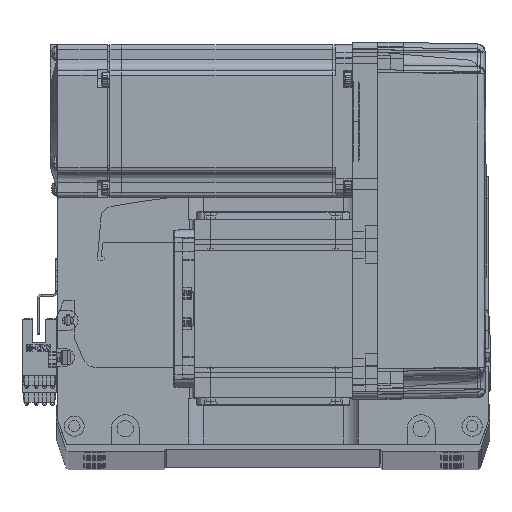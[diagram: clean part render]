
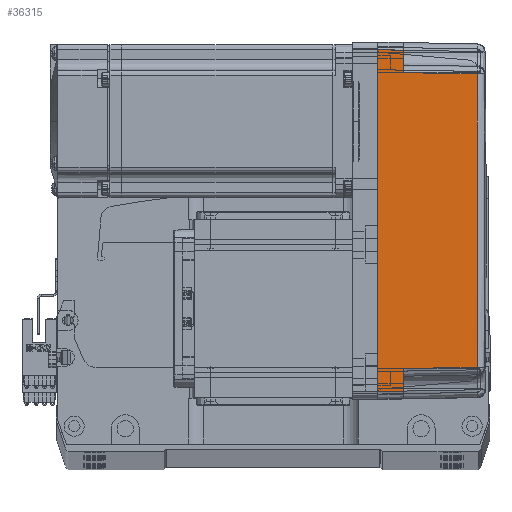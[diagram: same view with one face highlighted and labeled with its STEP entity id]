
A CAD part, top view. The second image highlights one B-rep face of the part: STEP entity #36315.
In plain terms, the highlighted planar face has unit normal (0.018, 0, 1) as drawn and (0, -1, 0.017) by its records, which use the part's own axes.
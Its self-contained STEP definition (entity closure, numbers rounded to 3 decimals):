
#50 = CARTESIAN_POINT ( 'NONE',  ( -58., -35.825, 10. ) ) ;
#1685 = LINE ( 'NONE', #41602, #22486 ) ;
#1784 = DIRECTION ( 'NONE',  ( 0., -0.017, -1. ) ) ;
#1838 = CARTESIAN_POINT ( 'NONE',  ( 66.826, -35.825, 10. ) ) ;
#1848 = VERTEX_POINT ( 'NONE', #66404 ) ;
#3547 = EDGE_CURVE ( 'NONE', #44072, #3699, #45380, .T. ) ;
#3699 = VERTEX_POINT ( 'NONE', #50 ) ;
#4938 = ORIENTED_EDGE ( 'NONE', *, *, #40182, .T. ) ;
#5418 = CARTESIAN_POINT ( 'NONE',  ( 0., -36., 0. ) ) ;
#6185 = ORIENTED_EDGE ( 'NONE', *, *, #15941, .F. ) ;
#6418 = CARTESIAN_POINT ( 'NONE',  ( -57.495, -35.32, 38.985 ) ) ;
#6998 = DIRECTION ( 'NONE',  ( -1., 0., 0. ) ) ;
#11124 = ORIENTED_EDGE ( 'NONE', *, *, #41765, .T. ) ;
#11686 = EDGE_CURVE ( 'NONE', #74172, #57966, #49314, .T. ) ;
#12931 = CARTESIAN_POINT ( 'NONE',  ( -19.165, -35.316, 39.181 ) ) ;
#15156 = CARTESIAN_POINT ( 'NONE',  ( 58., -35.825, 10. ) ) ;
#15652 = CARTESIAN_POINT ( 'NONE',  ( -57.495, -35.32, 38.985 ) ) ;
#15899 = DIRECTION ( 'NONE',  ( -0.017, 0.017, 1. ) ) ;
#15941 = EDGE_CURVE ( 'NONE', #19341, #74172, #52942, .T. ) ;
#16978 = VERTEX_POINT ( 'NONE', #1838 ) ;
#17198 = CARTESIAN_POINT ( 'NONE',  ( -66.959, -35.958, 2.39 ) ) ;
#18239 = CARTESIAN_POINT ( 'NONE',  ( 57.495, -35.32, 38.985 ) ) ;
#19341 = VERTEX_POINT ( 'NONE', #32336 ) ;
#19755 = FACE_OUTER_BOUND ( 'NONE', #39770, .T. ) ;
#21669 = ORIENTED_EDGE ( 'NONE', *, *, #38778, .T. ) ;
#22486 = VECTOR ( 'NONE', #6998, 1000. ) ;
#25475 = PLANE ( 'NONE',  #37533 ) ;
#25504 = VECTOR ( 'NONE', #50763, 1000. ) ;
#25732 = CARTESIAN_POINT ( 'NONE',  ( 70., -36., 0. ) ) ;
#26575 = DIRECTION ( 'NONE',  ( -0.017, 0.017, 1. ) ) ;
#27777 = ORIENTED_EDGE ( 'NONE', *, *, #40243, .T. ) ;
#28878 = DIRECTION ( 'NONE',  ( 0.017, 0.017, 1. ) ) ;
#31261 = VECTOR ( 'NONE', #26575, 1000. ) ;
#32336 = CARTESIAN_POINT ( 'NONE',  ( 67., -36., 0. ) ) ;
#33223 = DIRECTION ( 'NONE',  ( -1., 0., 0. ) ) ;
#33414 = CARTESIAN_POINT ( 'NONE',  ( 70., -35.825, 10. ) ) ;
#33673 = DIRECTION ( 'NONE',  ( -0.017, -0.017, -1. ) ) ;
#36315 = ADVANCED_FACE ( 'NONE', ( #19755 ), #25475, .T. ) ;
#37378 = DIRECTION ( 'NONE',  ( 0., -1., 0.017 ) ) ;
#37533 = AXIS2_PLACEMENT_3D ( 'NONE', #25732, #37378, #1784 ) ;
#38255 = EDGE_CURVE ( 'NONE', #56177, #44072, #74639, .T. ) ;
#38446 = CARTESIAN_POINT ( 'NONE',  ( -67., -36., 0. ) ) ;
#38584 = VECTOR ( 'NONE', #33223, 1000. ) ;
#38778 = EDGE_CURVE ( 'NONE', #16978, #1848, #1685, .T. ) ;
#39503 = ORIENTED_EDGE ( 'NONE', *, *, #38255, .T. ) ;
#39770 = EDGE_LOOP ( 'NONE', ( #27777, #21669, #4938, #39503, #58213, #11124, #53845, #6185 ) ) ;
#40182 = EDGE_CURVE ( 'NONE', #1848, #56177, #50165, .T. ) ;
#40242 = CARTESIAN_POINT ( 'NONE',  ( -57.495, -35.32, 38.985 ) ) ;
#40243 = EDGE_CURVE ( 'NONE', #19341, #16978, #61888, .T. ) ;
#41064 = CARTESIAN_POINT ( 'NONE',  ( 19.165, -35.316, 39.181 ) ) ;
#41602 = CARTESIAN_POINT ( 'NONE',  ( 70., -35.825, 10. ) ) ;
#41765 = EDGE_CURVE ( 'NONE', #3699, #57966, #71574, .T. ) ;
#43918 = VECTOR ( 'NONE', #28878, 1000. ) ;
#44072 = VERTEX_POINT ( 'NONE', #40242 ) ;
#45380 = LINE ( 'NONE', #15652, #58917 ) ;
#49314 = LINE ( 'NONE', #17198, #43918 ) ;
#50165 = LINE ( 'NONE', #15156, #31261 ) ;
#50492 = CARTESIAN_POINT ( 'NONE',  ( 67., -36., 0. ) ) ;
#50763 = DIRECTION ( 'NONE',  ( -1., 0., 0. ) ) ;
#52942 = LINE ( 'NONE', #5418, #38584 ) ;
#53845 = ORIENTED_EDGE ( 'NONE', *, *, #11686, .F. ) ;
#56177 = VERTEX_POINT ( 'NONE', #18239 ) ;
#57966 = VERTEX_POINT ( 'NONE', #72845 ) ;
#58213 = ORIENTED_EDGE ( 'NONE', *, *, #3547, .T. ) ;
#58917 = VECTOR ( 'NONE', #33673, 1000. ) ;
#61888 = LINE ( 'NONE', #50492, #68244 ) ;
#64414 = CARTESIAN_POINT ( 'NONE',  ( 57.495, -35.32, 38.985 ) ) ;
#66404 = CARTESIAN_POINT ( 'NONE',  ( 58., -35.825, 10. ) ) ;
#68244 = VECTOR ( 'NONE', #15899, 1000. ) ;
#71574 = LINE ( 'NONE', #33414, #25504 ) ;
#72845 = CARTESIAN_POINT ( 'NONE',  ( -66.826, -35.825, 10. ) ) ;
#74172 = VERTEX_POINT ( 'NONE', #38446 ) ;
#74639 = B_SPLINE_CURVE_WITH_KNOTS ( 'NONE', 3,
 ( #64414, #41064, #12931, #6418 ),
 .UNSPECIFIED., .F., .F.,
 ( 4, 4 ),
 ( 0., 1. ),
 .UNSPECIFIED. ) ;
